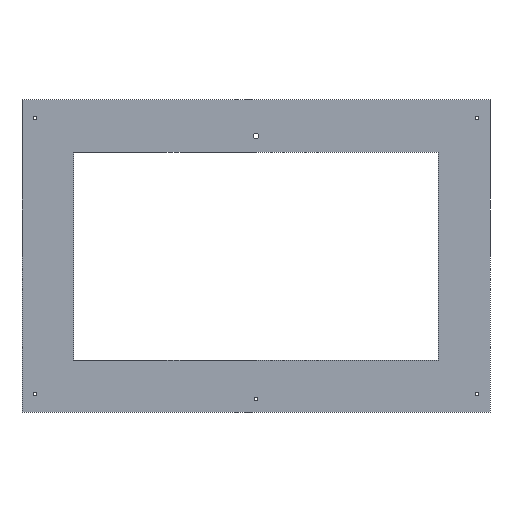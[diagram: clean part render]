
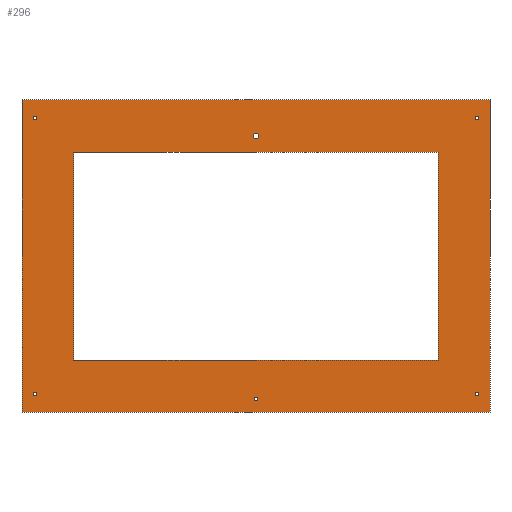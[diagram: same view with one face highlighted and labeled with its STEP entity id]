
A CAD part, front view. The second image highlights one B-rep face of the part: STEP entity #296.
In plain terms, the highlighted planar face has unit normal (0, -1, 0).
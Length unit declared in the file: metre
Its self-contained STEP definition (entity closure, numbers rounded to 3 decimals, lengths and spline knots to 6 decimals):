
#18=LINE('',#447,#42);
#19=LINE('',#450,#43);
#20=LINE('',#452,#44);
#21=LINE('',#454,#45);
#22=LINE('',#455,#46);
#23=LINE('',#458,#47);
#24=LINE('',#460,#48);
#25=LINE('',#462,#49);
#42=VECTOR('',#367,1.);
#43=VECTOR('',#368,1.);
#44=VECTOR('',#369,1.);
#45=VECTOR('',#370,1.);
#46=VECTOR('',#371,1.);
#47=VECTOR('',#372,1.);
#48=VECTOR('',#373,1.);
#49=VECTOR('',#374,1.);
#66=ORIENTED_EDGE('',*,*,#138,.F.);
#67=ORIENTED_EDGE('',*,*,#139,.T.);
#68=ORIENTED_EDGE('',*,*,#140,.F.);
#69=ORIENTED_EDGE('',*,*,#141,.F.);
#70=ORIENTED_EDGE('',*,*,#142,.F.);
#71=ORIENTED_EDGE('',*,*,#143,.F.);
#72=ORIENTED_EDGE('',*,*,#144,.T.);
#73=ORIENTED_EDGE('',*,*,#145,.T.);
#74=ORIENTED_EDGE('',*,*,#146,.F.);
#75=ORIENTED_EDGE('',*,*,#147,.F.);
#76=ORIENTED_EDGE('',*,*,#148,.T.);
#77=ORIENTED_EDGE('',*,*,#149,.T.);
#78=ORIENTED_EDGE('',*,*,#150,.F.);
#79=ORIENTED_EDGE('',*,*,#151,.T.);
#138=EDGE_CURVE('',#174,#174,#202,.T.);
#139=EDGE_CURVE('',#175,#175,#203,.F.);
#140=EDGE_CURVE('',#176,#176,#204,.T.);
#141=EDGE_CURVE('',#177,#177,#205,.T.);
#142=EDGE_CURVE('',#178,#178,#206,.T.);
#143=EDGE_CURVE('',#179,#180,#18,.T.);
#144=EDGE_CURVE('',#179,#181,#19,.T.);
#145=EDGE_CURVE('',#181,#182,#20,.T.);
#146=EDGE_CURVE('',#180,#182,#21,.T.);
#147=EDGE_CURVE('',#183,#184,#22,.T.);
#148=EDGE_CURVE('',#183,#185,#23,.T.);
#149=EDGE_CURVE('',#185,#186,#24,.T.);
#150=EDGE_CURVE('',#184,#186,#25,.T.);
#151=EDGE_CURVE('',#187,#187,#207,.F.);
#174=VERTEX_POINT('',#438);
#175=VERTEX_POINT('',#440);
#176=VERTEX_POINT('',#442);
#177=VERTEX_POINT('',#444);
#178=VERTEX_POINT('',#446);
#179=VERTEX_POINT('',#448);
#180=VERTEX_POINT('',#449);
#181=VERTEX_POINT('',#451);
#182=VERTEX_POINT('',#453);
#183=VERTEX_POINT('',#456);
#184=VERTEX_POINT('',#457);
#185=VERTEX_POINT('',#459);
#186=VERTEX_POINT('',#461);
#187=VERTEX_POINT('',#464);
#202=CIRCLE('',#326,0.002605);
#203=CIRCLE('',#327,0.001613);
#204=CIRCLE('',#328,0.001613);
#205=CIRCLE('',#329,0.001613);
#206=CIRCLE('',#330,0.001613);
#207=CIRCLE('',#331,0.001613);
#214=EDGE_LOOP('',(#66));
#215=EDGE_LOOP('',(#67));
#216=EDGE_LOOP('',(#68));
#217=EDGE_LOOP('',(#69));
#218=EDGE_LOOP('',(#70));
#219=EDGE_LOOP('',(#71,#72,#73,#74));
#220=EDGE_LOOP('',(#75,#76,#77,#78));
#221=EDGE_LOOP('',(#79));
#250=FACE_BOUND('',#214,.T.);
#251=FACE_BOUND('',#215,.T.);
#252=FACE_BOUND('',#216,.T.);
#253=FACE_BOUND('',#217,.T.);
#254=FACE_BOUND('',#218,.T.);
#255=FACE_BOUND('',#219,.T.);
#256=FACE_BOUND('',#220,.T.);
#257=FACE_BOUND('',#221,.T.);
#286=PLANE('',#325);
#296=ADVANCED_FACE('',(#250,#251,#252,#253,#254,#255,#256,#257),#286,.T.);
#325=AXIS2_PLACEMENT_3D('',#436,#355,#356);
#326=AXIS2_PLACEMENT_3D('',#437,#357,#358);
#327=AXIS2_PLACEMENT_3D('',#439,#359,#360);
#328=AXIS2_PLACEMENT_3D('',#441,#361,#362);
#329=AXIS2_PLACEMENT_3D('',#443,#363,#364);
#330=AXIS2_PLACEMENT_3D('',#445,#365,#366);
#331=AXIS2_PLACEMENT_3D('',#463,#375,#376);
#355=DIRECTION('',(0.,-1.,0.));
#356=DIRECTION('',(1.,0.,0.));
#357=DIRECTION('',(0.,-1.,0.));
#358=DIRECTION('',(0.,0.,-1.));
#359=DIRECTION('',(0.,-1.,0.));
#360=DIRECTION('',(0.,0.,-1.));
#361=DIRECTION('',(0.,-1.,0.));
#362=DIRECTION('',(0.,0.,-1.));
#363=DIRECTION('',(0.,-1.,0.));
#364=DIRECTION('',(0.,0.,-1.));
#365=DIRECTION('',(0.,-1.,0.));
#366=DIRECTION('',(0.,0.,-1.));
#367=DIRECTION('',(0.,0.,-1.));
#368=DIRECTION('',(1.,0.,0.));
#369=DIRECTION('',(0.,0.,-1.));
#370=DIRECTION('',(1.,0.,0.));
#371=DIRECTION('',(1.,0.,0.));
#372=DIRECTION('',(0.,0.,-1.));
#373=DIRECTION('',(1.,0.,0.));
#374=DIRECTION('',(0.,0.,-1.));
#375=DIRECTION('',(0.,-1.,0.));
#376=DIRECTION('',(0.,0.,-1.));
#436=CARTESIAN_POINT('',(0.,-0.00635,0.));
#437=CARTESIAN_POINT('',(0.,-0.00635,0.117246));
#438=CARTESIAN_POINT('',(0.,-0.00635,0.114641));
#439=CARTESIAN_POINT('',(0.2159,-0.00635,-0.134938));
#440=CARTESIAN_POINT('',(0.2159,-0.00635,-0.13655));
#441=CARTESIAN_POINT('',(-0.2159,-0.00635,-0.134938));
#442=CARTESIAN_POINT('',(-0.2159,-0.00635,-0.13655));
#443=CARTESIAN_POINT('',(0.2159,-0.00635,0.134938));
#444=CARTESIAN_POINT('',(0.2159,-0.00635,0.133325));
#445=CARTESIAN_POINT('',(0.,-0.00635,-0.1397));
#446=CARTESIAN_POINT('',(0.,-0.00635,-0.141313));
#447=CARTESIAN_POINT('',(-0.1778,-0.00635,0.));
#448=CARTESIAN_POINT('',(-0.1778,-0.00635,0.1016));
#449=CARTESIAN_POINT('',(-0.1778,-0.00635,-0.1016));
#450=CARTESIAN_POINT('',(0.,-0.00635,0.1016));
#451=CARTESIAN_POINT('',(0.1778,-0.00635,0.1016));
#452=CARTESIAN_POINT('',(0.1778,-0.00635,0.));
#453=CARTESIAN_POINT('',(0.1778,-0.00635,-0.1016));
#454=CARTESIAN_POINT('',(0.,-0.00635,-0.1016));
#455=CARTESIAN_POINT('',(0.,-0.00635,0.1524));
#456=CARTESIAN_POINT('',(-0.2286,-0.00635,0.1524));
#457=CARTESIAN_POINT('',(0.2286,-0.00635,0.1524));
#458=CARTESIAN_POINT('',(-0.2286,-0.00635,0.));
#459=CARTESIAN_POINT('',(-0.2286,-0.00635,-0.1524));
#460=CARTESIAN_POINT('',(0.,-0.00635,-0.1524));
#461=CARTESIAN_POINT('',(0.2286,-0.00635,-0.1524));
#462=CARTESIAN_POINT('',(0.2286,-0.00635,0.));
#463=CARTESIAN_POINT('',(-0.2159,-0.00635,0.134938));
#464=CARTESIAN_POINT('',(-0.2159,-0.00635,0.133325));
